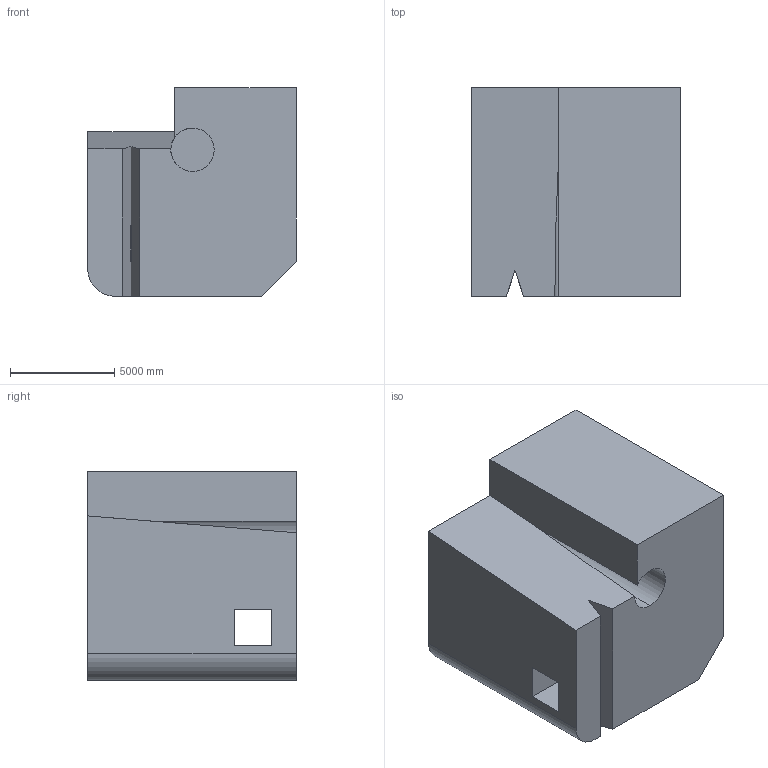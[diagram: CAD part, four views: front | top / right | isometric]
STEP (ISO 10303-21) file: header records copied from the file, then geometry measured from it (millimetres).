
FILE_DESCRIPTION (( 'STEP AP203' ), '1' );
FILE_NAME ('735.STEP', '2022-07-29T12:50:33', ( 'user' ), ( '' ), 'SwSTEP 2.0', 'SolidWorks 2021', '' );
FILE_SCHEMA (( 'CONFIG_CONTROL_DESIGN' ));
Length unit declared in the file: centimetre
Products named in the file (1): 735
Bounding box: 10000 x 10000 x 10000 mm (x, y, z)
Volume: 811247298742.1 mm3; surface area: 696111814.7 mm2
Topology: 1 solids, 1 shells, 29 faces, 87 edges, 58 vertices
Faces by surface type: plane 25, cylinder 4
Entity records: 1055 total; most frequent: CARTESIAN_POINT 184, ORIENTED_EDGE 174, DIRECTION 153, EDGE_CURVE 87, VECTOR 75, LINE 75, VERTEX_POINT 58, AXIS2_PLACEMENT_3D 39
